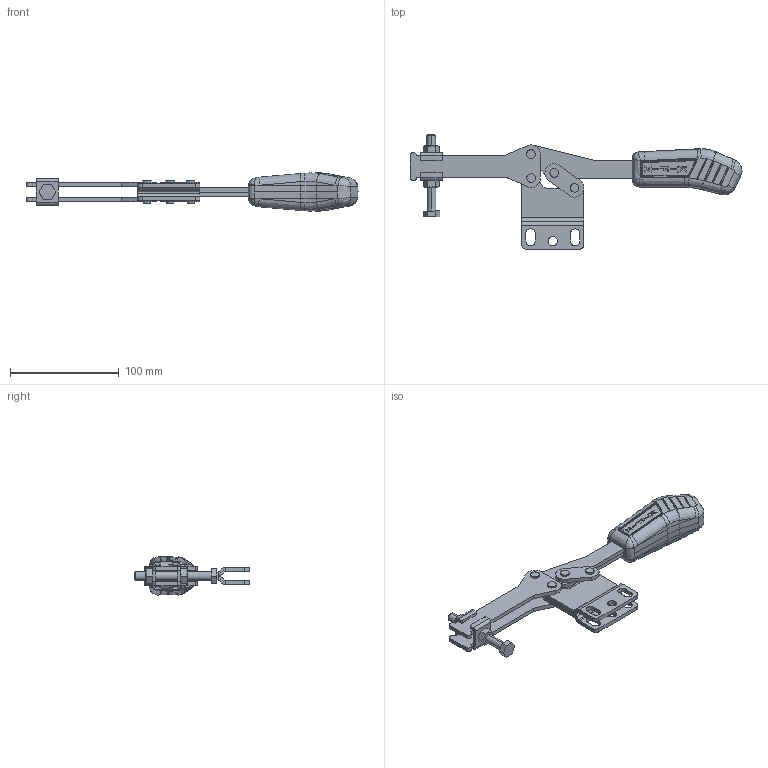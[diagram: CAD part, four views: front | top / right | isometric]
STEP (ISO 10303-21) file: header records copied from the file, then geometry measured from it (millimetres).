
FILE_DESCRIPTION (( 'STEP AP203' ), '1' );
FILE_NAME ('KF-533 R.STEP', '2014-08-18T16:59:23', ( 'Ricardo' ), ( '' ), 'SwSTEP 2.0', 'SolidWorks 2013', '' );
FILE_SCHEMA (( 'CONFIG_CONTROL_DESIGN' ));
Length unit declared in the file: millimetre
Products named in the file (12): 14.10010; 11.50002; 12.50003; 02.12102_Esquerda; 06.50053; 01.10123; 02.12102_Direita; KF-533 R; 03.13032; 08.10056; 07.60002; 17.50001
Assembly tree (26 placements, depth 2):
  KF-533 R
    02.12102_Direita
    02.12102_Esquerda
    01.10123  x2
    03.13032  x2
    08.10056  x2
    07.60002
    17.50001  x8
    14.10010  x2
    11.50002  x2
    12.50003
    06.50053  x4
Bounding box: 304.78 x 105.08 x 35.03 mm (x, y, z)
Volume: 168749.7 mm3; surface area: 76638.9 mm2
Topology: 26 solids, 26 shells, 822 faces, 2000 edges, 1239 vertices
Faces by surface type: plane 286, cylinder 230, bspline 157, cone 94, sphere 52, torus 3
Entity records: 23706 total; most frequent: CARTESIAN_POINT 8899, ORIENTED_EDGE 2992, DIRECTION 2355, EDGE_CURVE 1496, VERTEX_POINT 940, AXIS2_PLACEMENT_3D 889, EDGE_LOOP 664, ADVANCED_FACE 601
